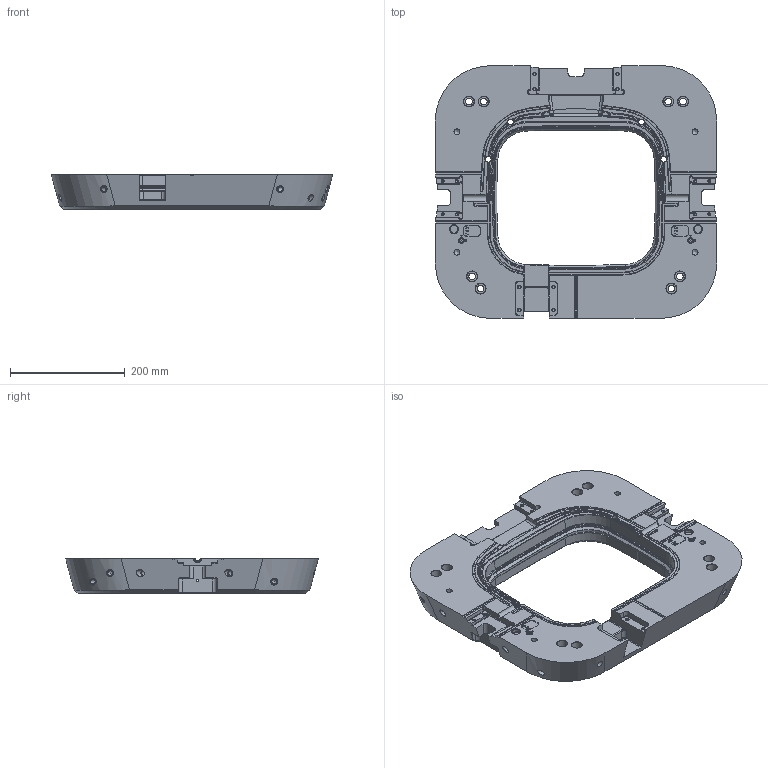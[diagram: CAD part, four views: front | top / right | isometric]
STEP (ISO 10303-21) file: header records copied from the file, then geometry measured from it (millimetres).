
FILE_DESCRIPTION(('STEP AP214'),'1');
FILE_NAME('Test_STEP.stp','2015-07-02T10:15:36',('sklug'),('None'),'Spatial InterOp 3D','Cimatron E 12.0',' ');
FILE_SCHEMA(('automotive_design'));
Length unit declared in the file: millimetre
Products named in the file (1756): 1; 2; 3; 4; 5; 6; 7; 8; 9; 10; 11; 12; 13; 14; 15; 16; 17; 18; 19; 20; 21; 22; 23; 24; 25; 26; 27; 28; 29; 30; 31; 32; 33; 34; 35; 36; 37; 38; 39; 40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
Bounding box: 491 x 441 x 60.2 mm (x, y, z)
Surface area: 551450.2 mm2 (no closed solid volume)
Topology: 0 solids, 1756 shells, 1756 faces, 8379 edges, 8062 vertices
Faces by surface type: cylinder 547, plane 541, torus 233, cone 224, bspline 195, sphere 16
Full cylindrical faces by diameter (mm): 3 x2, 3.2 x2, 4 x2, 4.2 x16, 5 x10, 8 x47, 9 x22, 10 x8, 10.2 x4, 11.5 x8, 12 x17, 14 x4, 18 x8, 42.1 x4
Entity records: 141476 total; most frequent: CARTESIAN_POINT 33097, DIRECTION 17682, ORIENTED_EDGE 7966, EDGE_CURVE 7966, VERTEX_POINT 7966, AXIS2_PLACEMENT_3D 7185, CIRCLE 3418, LINE 3312
